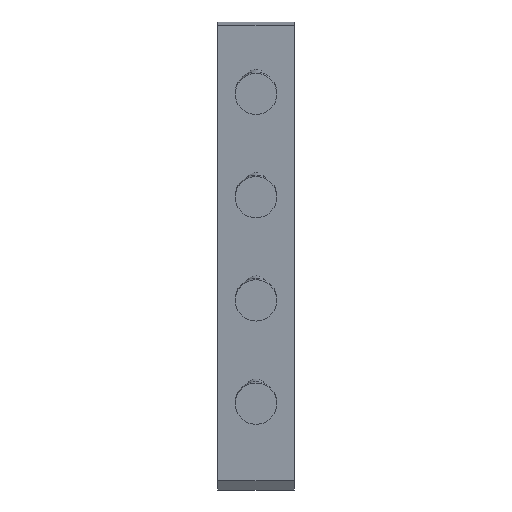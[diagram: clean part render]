
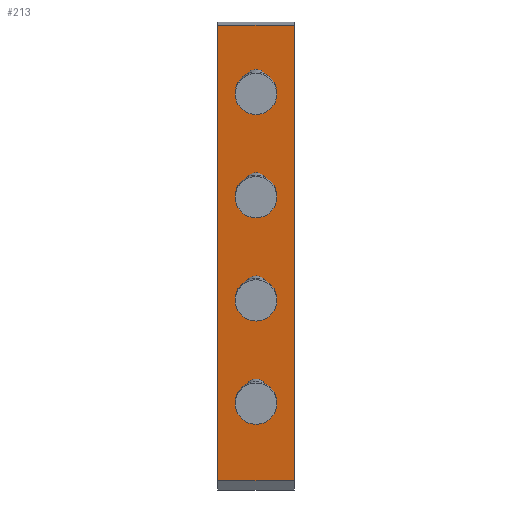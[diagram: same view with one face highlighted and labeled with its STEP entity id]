
A CAD part, front view. The second image highlights one B-rep face of the part: STEP entity #213.
In plain terms, the highlighted planar face has unit normal (0, -0.993, -0.122).
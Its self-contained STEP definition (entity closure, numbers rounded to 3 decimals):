
#24 = VERTEX_POINT('',#25);
#25 = CARTESIAN_POINT('',(-5.5,-12.257,-87.994));
#32 = PLANE('',#33);
#33 = AXIS2_PLACEMENT_3D('',#34,#35,#36);
#34 = CARTESIAN_POINT('',(-5.5,-8.277,-87.506));
#35 = DIRECTION('',(0.,0.122,-0.993));
#36 = DIRECTION('',(0.,-0.993,-0.122));
#44 = PLANE('',#45);
#45 = AXIS2_PLACEMENT_3D('',#46,#47,#48);
#46 = CARTESIAN_POINT('',(-5.5,-6.063,-121.993));
#47 = DIRECTION('',(1.,0.,0.));
#48 = DIRECTION('',(0.,-0.122,0.993));
#85 = VERTEX_POINT('',#86);
#86 = CARTESIAN_POINT('',(5.5,-12.257,-87.994));
#100 = PLANE('',#101);
#101 = AXIS2_PLACEMENT_3D('',#102,#103,#104);
#102 = CARTESIAN_POINT('',(5.5,-6.063,-121.993));
#103 = DIRECTION('',(1.,0.,0.));
#104 = DIRECTION('',(0.,-0.122,0.993));
#112 = EDGE_CURVE('',#24,#85,#113,.T.);
#113 = SURFACE_CURVE('',#114,(#118,#125),.PCURVE_S1.);
#114 = LINE('',#115,#116);
#115 = CARTESIAN_POINT('',(-5.5,-12.257,-87.994));
#116 = VECTOR('',#117,1.);
#117 = DIRECTION('',(1.,0.,0.));
#118 = PCURVE('',#32,#119);
#119 = DEFINITIONAL_REPRESENTATION('',(#120),#124);
#120 = LINE('',#121,#122);
#121 = CARTESIAN_POINT('',(4.01,0.));
#122 = VECTOR('',#123,1.);
#123 = DIRECTION('',(0.,-1.));
#124 = ( GEOMETRIC_REPRESENTATION_CONTEXT(2) 
PARAMETRIC_REPRESENTATION_CONTEXT() REPRESENTATION_CONTEXT('2D SPACE',''
  ) );
#125 = PCURVE('',#126,#131);
#126 = PLANE('',#127);
#127 = AXIS2_PLACEMENT_3D('',#128,#129,#130);
#128 = CARTESIAN_POINT('',(-5.5,-12.257,-87.994));
#129 = DIRECTION('',(0.,0.993,0.122));
#130 = DIRECTION('',(0.,0.122,-0.993));
#131 = DEFINITIONAL_REPRESENTATION('',(#132),#136);
#132 = LINE('',#133,#134);
#133 = CARTESIAN_POINT('',(0.,0.));
#134 = VECTOR('',#135,1.);
#135 = DIRECTION('',(0.,-1.));
#136 = ( GEOMETRIC_REPRESENTATION_CONTEXT(2) 
PARAMETRIC_REPRESENTATION_CONTEXT() REPRESENTATION_CONTEXT('2D SPACE',''
  ) );
#165 = EDGE_CURVE('',#24,#166,#168,.T.);
#166 = VERTEX_POINT('',#167);
#167 = CARTESIAN_POINT('',(-5.5,-4.197,-153.636));
#168 = SURFACE_CURVE('',#169,(#173,#180),.PCURVE_S1.);
#169 = LINE('',#170,#171);
#170 = CARTESIAN_POINT('',(-5.5,-12.257,-87.994));
#171 = VECTOR('',#172,1.);
#172 = DIRECTION('',(0.,0.122,-0.993));
#173 = PCURVE('',#44,#174);
#174 = DEFINITIONAL_REPRESENTATION('',(#175),#179);
#175 = LINE('',#176,#177);
#176 = CARTESIAN_POINT('',(34.5,2.005));
#177 = VECTOR('',#178,1.);
#178 = DIRECTION('',(-1.,0.));
#179 = ( GEOMETRIC_REPRESENTATION_CONTEXT(2) 
PARAMETRIC_REPRESENTATION_CONTEXT() REPRESENTATION_CONTEXT('2D SPACE',''
  ) );
#180 = PCURVE('',#126,#181);
#181 = DEFINITIONAL_REPRESENTATION('',(#182),#186);
#182 = LINE('',#183,#184);
#183 = CARTESIAN_POINT('',(0.,0.));
#184 = VECTOR('',#185,1.);
#185 = DIRECTION('',(1.,0.));
#186 = ( GEOMETRIC_REPRESENTATION_CONTEXT(2) 
PARAMETRIC_REPRESENTATION_CONTEXT() REPRESENTATION_CONTEXT('2D SPACE',''
  ) );
#202 = PLANE('',#203);
#203 = AXIS2_PLACEMENT_3D('',#204,#205,#206);
#204 = CARTESIAN_POINT('',(-26.,-20.987,-148.181));
#205 = DIRECTION('',(0.,0.309,0.951));
#206 = DIRECTION('',(0.,0.951,-0.309));
#213 = ADVANCED_FACE('',(#214,#262,#293,#324,#355),#126,.F.);
#214 = FACE_BOUND('',#215,.F.);
#215 = EDGE_LOOP('',(#216,#217,#218,#241));
#216 = ORIENTED_EDGE('',*,*,#165,.F.);
#217 = ORIENTED_EDGE('',*,*,#112,.T.);
#218 = ORIENTED_EDGE('',*,*,#219,.T.);
#219 = EDGE_CURVE('',#85,#220,#222,.T.);
#220 = VERTEX_POINT('',#221);
#221 = CARTESIAN_POINT('',(5.5,-4.197,-153.636));
#222 = SURFACE_CURVE('',#223,(#227,#234),.PCURVE_S1.);
#223 = LINE('',#224,#225);
#224 = CARTESIAN_POINT('',(5.5,-12.257,-87.994));
#225 = VECTOR('',#226,1.);
#226 = DIRECTION('',(0.,0.122,-0.993));
#227 = PCURVE('',#126,#228);
#228 = DEFINITIONAL_REPRESENTATION('',(#229),#233);
#229 = LINE('',#230,#231);
#230 = CARTESIAN_POINT('',(0.,-11.));
#231 = VECTOR('',#232,1.);
#232 = DIRECTION('',(1.,0.));
#233 = ( GEOMETRIC_REPRESENTATION_CONTEXT(2) 
PARAMETRIC_REPRESENTATION_CONTEXT() REPRESENTATION_CONTEXT('2D SPACE',''
  ) );
#234 = PCURVE('',#100,#235);
#235 = DEFINITIONAL_REPRESENTATION('',(#236),#240);
#236 = LINE('',#237,#238);
#237 = CARTESIAN_POINT('',(34.5,2.005));
#238 = VECTOR('',#239,1.);
#239 = DIRECTION('',(-1.,0.));
#240 = ( GEOMETRIC_REPRESENTATION_CONTEXT(2) 
PARAMETRIC_REPRESENTATION_CONTEXT() REPRESENTATION_CONTEXT('2D SPACE',''
  ) );
#241 = ORIENTED_EDGE('',*,*,#242,.F.);
#242 = EDGE_CURVE('',#166,#220,#243,.T.);
#243 = SURFACE_CURVE('',#244,(#248,#255),.PCURVE_S1.);
#244 = LINE('',#245,#246);
#245 = CARTESIAN_POINT('',(-15.75,-4.197,-153.636));
#246 = VECTOR('',#247,1.);
#247 = DIRECTION('',(1.,0.,0.));
#248 = PCURVE('',#126,#249);
#249 = DEFINITIONAL_REPRESENTATION('',(#250),#254);
#250 = LINE('',#251,#252);
#251 = CARTESIAN_POINT('',(66.135,10.25));
#252 = VECTOR('',#253,1.);
#253 = DIRECTION('',(0.,-1.));
#254 = ( GEOMETRIC_REPRESENTATION_CONTEXT(2) 
PARAMETRIC_REPRESENTATION_CONTEXT() REPRESENTATION_CONTEXT('2D SPACE',''
  ) );
#255 = PCURVE('',#202,#256);
#256 = DEFINITIONAL_REPRESENTATION('',(#257),#261);
#257 = LINE('',#258,#259);
#258 = CARTESIAN_POINT('',(17.654,-10.25));
#259 = VECTOR('',#260,1.);
#260 = DIRECTION('',(0.,-1.));
#261 = ( GEOMETRIC_REPRESENTATION_CONTEXT(2) 
PARAMETRIC_REPRESENTATION_CONTEXT() REPRESENTATION_CONTEXT('2D SPACE',''
  ) );
#262 = FACE_BOUND('',#263,.F.);
#263 = EDGE_LOOP('',(#264));
#264 = ORIENTED_EDGE('',*,*,#265,.F.);
#265 = EDGE_CURVE('',#266,#266,#268,.T.);
#266 = VERTEX_POINT('',#267);
#267 = CARTESIAN_POINT('',(-1.6,-11.282,-95.935));
#268 = SURFACE_CURVE('',#269,(#274,#281),.PCURVE_S1.);
#269 = CIRCLE('',#270,1.6);
#270 = AXIS2_PLACEMENT_3D('',#271,#272,#273);
#271 = CARTESIAN_POINT('',(0.,-11.282,-95.935));
#272 = DIRECTION('',(0.,0.993,0.122));
#273 = DIRECTION('',(-1.,0.,0.));
#274 = PCURVE('',#126,#275);
#275 = DEFINITIONAL_REPRESENTATION('',(#276),#280);
#276 = CIRCLE('',#277,1.6);
#277 = AXIS2_PLACEMENT_2D('',#278,#279);
#278 = CARTESIAN_POINT('',(8.,-5.5));
#279 = DIRECTION('',(0.,1.));
#280 = ( GEOMETRIC_REPRESENTATION_CONTEXT(2) 
PARAMETRIC_REPRESENTATION_CONTEXT() REPRESENTATION_CONTEXT('2D SPACE',''
  ) );
#281 = PCURVE('',#282,#287);
#282 = CYLINDRICAL_SURFACE('',#283,1.6);
#283 = AXIS2_PLACEMENT_3D('',#284,#285,#286);
#284 = CARTESIAN_POINT('',(0.,-10.786,-95.874));
#285 = DIRECTION('',(0.,0.993,0.122));
#286 = DIRECTION('',(-1.,0.,0.));
#287 = DEFINITIONAL_REPRESENTATION('',(#288),#292);
#288 = LINE('',#289,#290);
#289 = CARTESIAN_POINT('',(-6.283,-0.5));
#290 = VECTOR('',#291,1.);
#291 = DIRECTION('',(1.,-0.));
#292 = ( GEOMETRIC_REPRESENTATION_CONTEXT(2) 
PARAMETRIC_REPRESENTATION_CONTEXT() REPRESENTATION_CONTEXT('2D SPACE',''
  ) );
#293 = FACE_BOUND('',#294,.F.);
#294 = EDGE_LOOP('',(#295));
#295 = ORIENTED_EDGE('',*,*,#296,.F.);
#296 = EDGE_CURVE('',#297,#297,#299,.T.);
#297 = VERTEX_POINT('',#298);
#298 = CARTESIAN_POINT('',(-1.6,-9.454,-110.823));
#299 = SURFACE_CURVE('',#300,(#305,#312),.PCURVE_S1.);
#300 = CIRCLE('',#301,1.6);
#301 = AXIS2_PLACEMENT_3D('',#302,#303,#304);
#302 = CARTESIAN_POINT('',(0.,-9.454,-110.823));
#303 = DIRECTION('',(0.,0.993,0.122));
#304 = DIRECTION('',(-1.,0.,0.));
#305 = PCURVE('',#126,#306);
#306 = DEFINITIONAL_REPRESENTATION('',(#307),#311);
#307 = CIRCLE('',#308,1.6);
#308 = AXIS2_PLACEMENT_2D('',#309,#310);
#309 = CARTESIAN_POINT('',(23.,-5.5));
#310 = DIRECTION('',(0.,1.));
#311 = ( GEOMETRIC_REPRESENTATION_CONTEXT(2) 
PARAMETRIC_REPRESENTATION_CONTEXT() REPRESENTATION_CONTEXT('2D SPACE',''
  ) );
#312 = PCURVE('',#313,#318);
#313 = CYLINDRICAL_SURFACE('',#314,1.6);
#314 = AXIS2_PLACEMENT_3D('',#315,#316,#317);
#315 = CARTESIAN_POINT('',(0.,-8.958,-110.762));
#316 = DIRECTION('',(0.,0.993,0.122));
#317 = DIRECTION('',(-1.,0.,0.));
#318 = DEFINITIONAL_REPRESENTATION('',(#319),#323);
#319 = LINE('',#320,#321);
#320 = CARTESIAN_POINT('',(-6.283,-0.5));
#321 = VECTOR('',#322,1.);
#322 = DIRECTION('',(1.,-0.));
#323 = ( GEOMETRIC_REPRESENTATION_CONTEXT(2) 
PARAMETRIC_REPRESENTATION_CONTEXT() REPRESENTATION_CONTEXT('2D SPACE',''
  ) );
#324 = FACE_BOUND('',#325,.F.);
#325 = EDGE_LOOP('',(#326));
#326 = ORIENTED_EDGE('',*,*,#327,.F.);
#327 = EDGE_CURVE('',#328,#328,#330,.T.);
#328 = VERTEX_POINT('',#329);
#329 = CARTESIAN_POINT('',(-1.6,-7.626,-125.711));
#330 = SURFACE_CURVE('',#331,(#336,#343),.PCURVE_S1.);
#331 = CIRCLE('',#332,1.6);
#332 = AXIS2_PLACEMENT_3D('',#333,#334,#335);
#333 = CARTESIAN_POINT('',(0.,-7.626,-125.711));
#334 = DIRECTION('',(0.,0.993,0.122));
#335 = DIRECTION('',(-1.,0.,0.));
#336 = PCURVE('',#126,#337);
#337 = DEFINITIONAL_REPRESENTATION('',(#338),#342);
#338 = CIRCLE('',#339,1.6);
#339 = AXIS2_PLACEMENT_2D('',#340,#341);
#340 = CARTESIAN_POINT('',(38.,-5.5));
#341 = DIRECTION('',(0.,1.));
#342 = ( GEOMETRIC_REPRESENTATION_CONTEXT(2) 
PARAMETRIC_REPRESENTATION_CONTEXT() REPRESENTATION_CONTEXT('2D SPACE',''
  ) );
#343 = PCURVE('',#344,#349);
#344 = CYLINDRICAL_SURFACE('',#345,1.6);
#345 = AXIS2_PLACEMENT_3D('',#346,#347,#348);
#346 = CARTESIAN_POINT('',(0.,-7.13,-125.65));
#347 = DIRECTION('',(0.,0.993,0.122));
#348 = DIRECTION('',(-1.,0.,0.));
#349 = DEFINITIONAL_REPRESENTATION('',(#350),#354);
#350 = LINE('',#351,#352);
#351 = CARTESIAN_POINT('',(-6.283,-0.5));
#352 = VECTOR('',#353,1.);
#353 = DIRECTION('',(1.,-0.));
#354 = ( GEOMETRIC_REPRESENTATION_CONTEXT(2) 
PARAMETRIC_REPRESENTATION_CONTEXT() REPRESENTATION_CONTEXT('2D SPACE',''
  ) );
#355 = FACE_BOUND('',#356,.F.);
#356 = EDGE_LOOP('',(#357));
#357 = ORIENTED_EDGE('',*,*,#358,.F.);
#358 = EDGE_CURVE('',#359,#359,#361,.T.);
#359 = VERTEX_POINT('',#360);
#360 = CARTESIAN_POINT('',(-1.6,-5.798,-140.599));
#361 = SURFACE_CURVE('',#362,(#367,#374),.PCURVE_S1.);
#362 = CIRCLE('',#363,1.6);
#363 = AXIS2_PLACEMENT_3D('',#364,#365,#366);
#364 = CARTESIAN_POINT('',(0.,-5.798,-140.599));
#365 = DIRECTION('',(0.,0.993,0.122));
#366 = DIRECTION('',(-1.,0.,0.));
#367 = PCURVE('',#126,#368);
#368 = DEFINITIONAL_REPRESENTATION('',(#369),#373);
#369 = CIRCLE('',#370,1.6);
#370 = AXIS2_PLACEMENT_2D('',#371,#372);
#371 = CARTESIAN_POINT('',(53.,-5.5));
#372 = DIRECTION('',(0.,1.));
#373 = ( GEOMETRIC_REPRESENTATION_CONTEXT(2) 
PARAMETRIC_REPRESENTATION_CONTEXT() REPRESENTATION_CONTEXT('2D SPACE',''
  ) );
#374 = PCURVE('',#375,#380);
#375 = CYLINDRICAL_SURFACE('',#376,1.6);
#376 = AXIS2_PLACEMENT_3D('',#377,#378,#379);
#377 = CARTESIAN_POINT('',(0.,-5.302,-140.538));
#378 = DIRECTION('',(0.,0.993,0.122));
#379 = DIRECTION('',(-1.,0.,0.));
#380 = DEFINITIONAL_REPRESENTATION('',(#381),#385);
#381 = LINE('',#382,#383);
#382 = CARTESIAN_POINT('',(-6.283,-0.5));
#383 = VECTOR('',#384,1.);
#384 = DIRECTION('',(1.,-0.));
#385 = ( GEOMETRIC_REPRESENTATION_CONTEXT(2) 
PARAMETRIC_REPRESENTATION_CONTEXT() REPRESENTATION_CONTEXT('2D SPACE',''
  ) );
